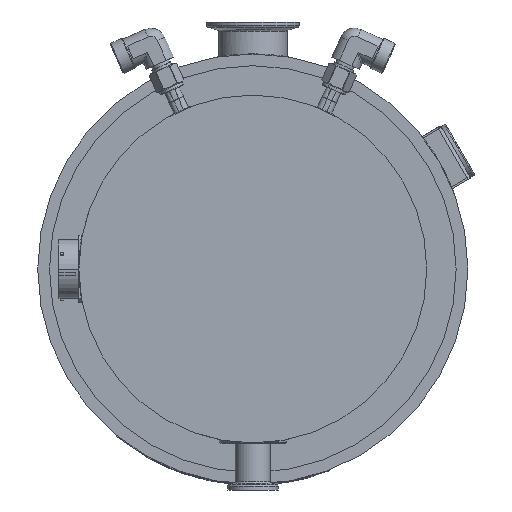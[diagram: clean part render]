
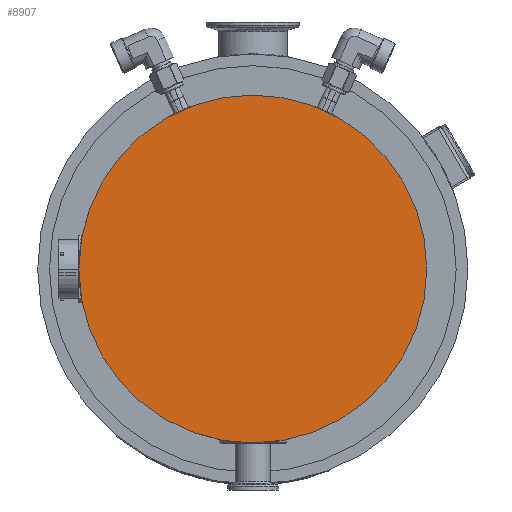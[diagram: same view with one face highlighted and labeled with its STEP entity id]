
A CAD part, front view. The second image highlights one B-rep face of the part: STEP entity #8907.
In plain terms, the highlighted planar face has unit normal (0, -1, 0).
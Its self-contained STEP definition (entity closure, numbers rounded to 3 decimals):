
#287=CARTESIAN_POINT('',(0.,-7.7,0.));
#288=DIRECTION('',(0.,1.,0.));
#289=DIRECTION('',(0.,0.,-1.));
#290=AXIS2_PLACEMENT_3D('',#287,#288,#289);
#680=CARTESIAN_POINT('',(0.,-7.7,0.));
#681=DIRECTION('',(0.,-1.,0.));
#682=DIRECTION('',(0.,0.,-1.));
#683=AXIS2_PLACEMENT_3D('',#680,#681,#682);
#6758=CARTESIAN_POINT('',(0.,-7.7,103.5));
#6760=VERTEX_POINT('',#6758);
#6796=CARTESIAN_POINT('',(0.,-7.7,-103.5));
#6797=VERTEX_POINT('',#6796);
#8898=CARTESIAN_POINT('',(0.,-7.7,0.));
#8899=DIRECTION('',(0.,-1.,0.));
#8900=DIRECTION('',(0.,0.,1.));
#8901=AXIS2_PLACEMENT_3D('',#8898,#8899,#8900);
#8902=PLANE('',#8901);
#8903=ORIENTED_EDGE('',*,*,#8264,.T.);
#8904=ORIENTED_EDGE('',*,*,#8758,.F.);
#8905=EDGE_LOOP('',(#8903,#8904));
#8906=FACE_OUTER_BOUND('',#8905,.F.);
#8907=ADVANCED_FACE('',(#8906),#8902,.T.);
#291=CIRCLE('',#290,103.5);
#684=CIRCLE('',#683,103.5);
#8264=EDGE_CURVE('',#6797,#6760,#291,.T.);
#8758=EDGE_CURVE('',#6797,#6760,#684,.T.);
